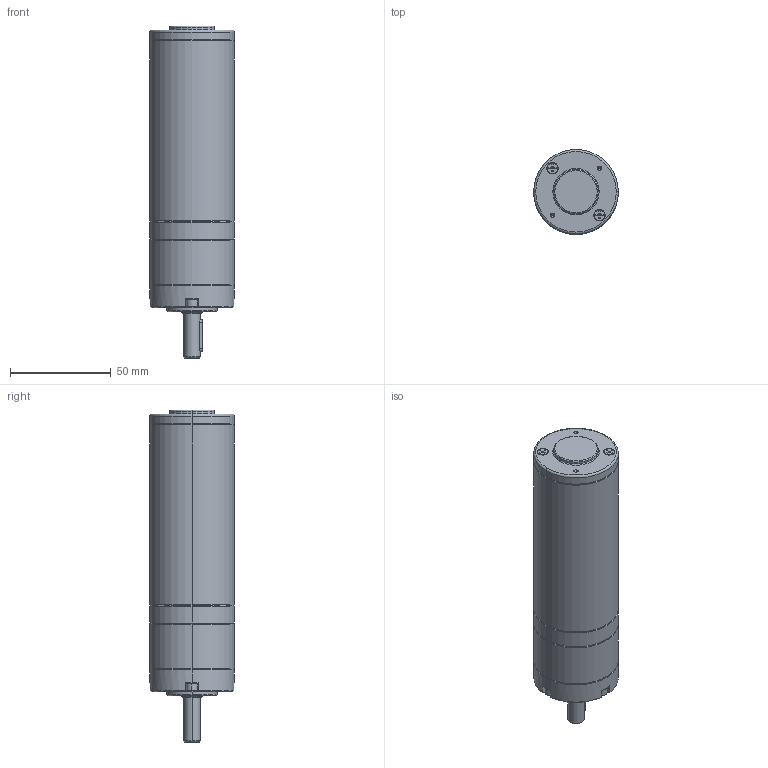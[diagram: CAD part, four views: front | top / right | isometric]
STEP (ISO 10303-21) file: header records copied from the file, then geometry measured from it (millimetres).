
FILE_DESCRIPTION (( 'STEP AP203' ), '1' );
FILE_NAME ('42ZPN衄芃珨撰熬厒.STEP', '2021-07-17T08:15:29', ( '' ), ( '' ), 'SwSTEP 2.0', 'SolidWorks 2021', '' );
FILE_SCHEMA (( 'CONFIG_CONTROL_DESIGN' ));
Length unit declared in the file: millimetre
Products named in the file (1): 42ZPN衄芃珨撰熬厒
Bounding box: 42 x 42 x 164.9 mm (x, y, z)
Volume: 193062.5 mm3; surface area: 23159.9 mm2
Topology: 1 solids, 1 shells, 224 faces, 534 edges, 330 vertices
Faces by surface type: plane 97, cylinder 71, cone 50, torus 6
Entity records: 6510 total; most frequent: CARTESIAN_POINT 1175, DIRECTION 1151, ORIENTED_EDGE 1040, EDGE_CURVE 520, AXIS2_PLACEMENT_3D 418, VERTEX_POINT 330, LINE 315, VECTOR 315
